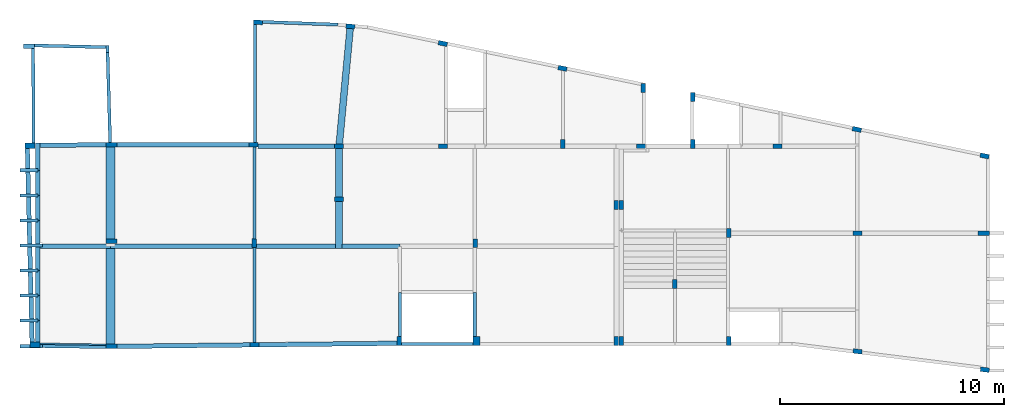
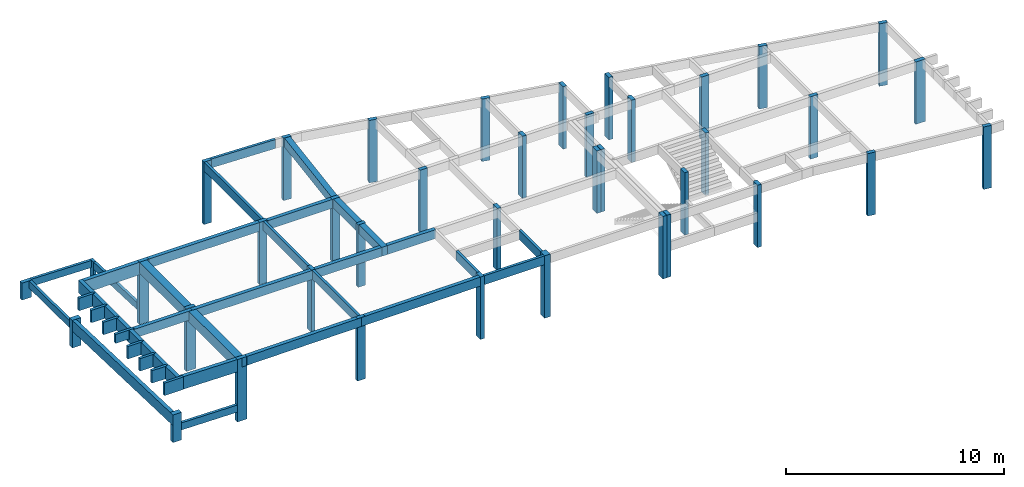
# One storey, part 1 of 5: 43 beams, 39 columns.
"""IFC4 building model written with IfcOpenShell, lengths in centimetres."""

from ifc_helpers import new_model, si_unit, derived_unit, frame, origin, origin_with_axes, origin_2d_with_axis, place, context, project, spatial, rectangle, extrude, clip, halfspace, material, element, save


model = new_model("IFC4")

# Units and contexts
model_context = context("Model", 3, precision=1e-05, world=origin_with_axes(), identifier="Body")
ifc_project = project(units=[si_unit("LENGTHUNIT", "METRE", prefix="CENTI"), si_unit("VOLUMEUNIT", "CUBIC_METRE"), si_unit("AREAUNIT", "SQUARE_METRE"), si_unit("POWERUNIT", "WATT"), si_unit("LUMINOUSFLUXUNIT", "LUMEN"), si_unit("ELECTRICCURRENTUNIT", "AMPERE"), si_unit("PRESSUREUNIT", "PASCAL", prefix="KILO"), si_unit("MASSUNIT", "GRAM", prefix="KILO"), si_unit("PLANEANGLEUNIT", "RADIAN"), derived_unit("VOLUMETRICFLOWRATEUNIT", [(si_unit("LENGTHUNIT", "METRE"), 3), (si_unit("TIMEUNIT", "SECOND"), -1)])], contexts=[model_context])

# Site, building, storey
site_placement = place(None, origin_with_axes())
site = spatial("IfcSite", under=ifc_project, at=site_placement)
building_placement = place(site_placement, origin())
building = spatial("IfcBuilding", under=site, at=building_placement)
placement_1 = place(building_placement, origin_with_axes())
placement_2 = place(placement_1, frame((0.0, 0.0, 550.0), z_axis=(0.0, 0.0, 1.0), x_axis=(1.0, 0.0, 0.0)))
storey_placement = place(placement_2, frame((0.0, 0.0, 350.0), z_axis=(0.0, 0.0, 1.0), x_axis=(1.0, 0.0, 0.0)))
storey = spatial("IfcBuildingStorey", under=building, at=storey_placement, Name="1º PAV.", CompositionType="ELEMENT", Elevation=900.0)

# Columns
ifc_material = material(Name="Concreto")
column_1_placement = place(storey_placement, frame((25.0, -10.0, -254.5), z_axis=(0.0, 0.0, 1.0), x_axis=(1.0, 0.0, 0.0)))
element("IfcColumn", 1, at=column_1_placement, inside=storey, material=ifc_material, Name="P.MURO1", context=model_context, shape_type="SolidModel", body=[
    extrude(rectangle(XDim=20.0, YDim=50.0, at=origin_2d_with_axis()), frame((0.0, 0.0, 0.0), z_axis=(0.0, 0.0, 1.0), x_axis=(0.0, -1.0, 0.0)), (0.0, 0.0, -1.0), 95.5),
])
column_2_placement = place(storey_placement, frame((373.95, -22.8, -254.5), z_axis=(0.0, 0.0, 1.0), x_axis=(1.0, 0.0, 0.0)))
element("IfcColumn", 2, at=column_2_placement, inside=storey, material=ifc_material, Name="P.MURO2", context=model_context, shape_type="SolidModel", body=[
    extrude(rectangle(XDim=14.0, YDim=30.0, at=origin_2d_with_axis()), origin_with_axes(), (0.0, 0.0, -1.0), 95.5),
])
for number, where, z_axis, x_axis, name in (
    (3, (30.0, -454.65, -194.5), (0.0, 0.0, 1.0), (1.0, 0.0, 0.0), "P.MURO3"),
    (4, (51.63, -1341.4, -194.5), (0.0, 0.0, 1.0), (1.0, 0.0, 0.0), "P.MURO4"),
):
    element("IfcColumn", number, at=place(storey_placement, frame(where, z_axis=z_axis, x_axis=x_axis)), inside=storey, material=ifc_material, Name=name, context=model_context, shape_type="SolidModel", body=[
        extrude(rectangle(XDim=25.0, YDim=45.0, at=origin_2d_with_axis()), frame((0.0, 0.0, 0.0), z_axis=(0.0, 0.0, 1.0), x_axis=(0.0, -1.0, 0.0)), (0.0, 0.0, -1.0), 155.5),
    ])
column_3_placement = place(storey_placement, frame((1045.1201307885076, 95.92384188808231, 0.0), z_axis=(0.0, 0.0, 1.0), x_axis=(1.0, 0.0, 0.0)))
element("IfcColumn", 5, at=column_3_placement, inside=storey, material=ifc_material, Name="P1", context=model_context, shape_type="SolidModel", body=[
    extrude(rectangle(XDim=20.0, YDim=40.0, at=origin_2d_with_axis()), frame((0.0, 0.0, 0.0), z_axis=(0.0, 0.0, 1.0), x_axis=(-0.036643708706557, -0.999328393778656, 0.0)), (0.0, 0.0, -1.0), 350.0),
])
for number, where, z_axis, x_axis, name in (
    (6, (1406.0, -455.9, 0.0), (0.0, 0.0, 1.0), (1.0, 0.0, 0.0), "P10"),
    (7, (1871.0, -455.9, 0.0), (0.0, 0.0, 1.0), (1.0, 0.0, 0.0), "P11"),
):
    element("IfcColumn", number, at=place(storey_placement, frame(where, z_axis=z_axis, x_axis=x_axis)), inside=storey, material=ifc_material, Name=name, context=model_context, shape_type="SolidModel", body=[
        extrude(rectangle(XDim=20.0, YDim=40.0, at=origin_2d_with_axis()), frame((0.0, 0.0, 0.0), z_axis=(0.0, 0.0, 1.0), x_axis=(0.0, -1.0, 0.0)), (0.0, 0.0, -1.0), 350.0),
    ])
column_4_placement = place(storey_placement, frame((2404.5, -445.9, 0.0), z_axis=(0.0, 0.0, 1.0), x_axis=(1.0, 0.0, 0.0)))
element("IfcColumn", 8, at=column_4_placement, inside=storey, material=ifc_material, Name="P12", context=model_context, shape_type="SolidModel", body=[
    extrude(rectangle(XDim=20.0, YDim=40.0, at=origin_2d_with_axis()), origin_with_axes(), (0.0, 0.0, -1.0), 350.0),
])
column_5_placement = place(storey_placement, frame((2753.0, -455.9, 0.0), z_axis=(0.0, 0.0, 1.0), x_axis=(1.0, 0.0, 0.0)))
element("IfcColumn", 9, at=column_5_placement, inside=storey, material=ifc_material, Name="P13", context=model_context, shape_type="SolidModel", body=[
    extrude(rectangle(XDim=20.0, YDim=40.0, at=origin_2d_with_axis()), frame((0.0, 0.0, 0.0), z_axis=(0.0, 0.0, 1.0), x_axis=(0.0, -1.0, 0.0)), (0.0, 0.0, -1.0), 350.0),
])
column_6_placement = place(storey_placement, frame((2983.0, -445.9, 0.0), z_axis=(0.0, 0.0, 1.0), x_axis=(1.0, 0.0, 0.0)))
element("IfcColumn", 10, at=column_6_placement, inside=storey, material=ifc_material, Name="P14", context=model_context, shape_type="SolidModel", body=[
    extrude(rectangle(XDim=20.0, YDim=40.0, at=origin_2d_with_axis()), origin_with_axes(), (0.0, 0.0, -1.0), 350.0),
])
column_7_placement = place(storey_placement, frame((3361.6, -455.9, 0.0), z_axis=(0.0, 0.0, 1.0), x_axis=(1.0, 0.0, 0.0)))
element("IfcColumn", 11, at=column_7_placement, inside=storey, material=ifc_material, Name="P15", context=model_context, shape_type="SolidModel", body=[
    extrude(rectangle(XDim=20.0, YDim=40.0, at=origin_2d_with_axis()), frame((0.0, 0.0, 0.0), z_axis=(0.0, 0.0, 1.0), x_axis=(0.0, -1.0, 0.0)), (0.0, 0.0, -1.0), 350.0),
])
column_8_placement = place(storey_placement, frame((4283.977691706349, -499.29875285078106, 0.0), z_axis=(0.0, 0.0, 1.0), x_axis=(1.0, 0.0, 0.0)))
element("IfcColumn", 12, at=column_8_placement, inside=storey, material=ifc_material, Name="P16", context=model_context, shape_type="SolidModel", body=[
    extrude(rectangle(XDim=20.0, YDim=40.0, at=origin_2d_with_axis()), frame((0.0, 0.0, 0.0), z_axis=(0.0, 0.0, 1.0), x_axis=(-0.204496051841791, -0.978867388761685, 0.0)), (0.0, 0.0, -1.0), 350.0),
])
column_9_placement = place(storey_placement, frame((1406.0, -692.9, 0.0), z_axis=(0.0, 0.0, 1.0), x_axis=(1.0, 0.0, 0.0)))
element("IfcColumn", 13, at=column_9_placement, inside=storey, material=ifc_material, Name="P18", context=model_context, shape_type="SolidModel", body=[
    extrude(rectangle(XDim=20.0, YDim=40.0, at=origin_2d_with_axis()), frame((0.0, 0.0, 0.0), z_axis=(0.0, 0.0, 1.0), x_axis=(0.0, 1.0, 0.0)), (0.0, 0.0, -1.0), 350.0),
])
column_10_placement = place(storey_placement, frame((2641.6, -718.1, 0.0), z_axis=(0.0, 0.0, 1.0), x_axis=(1.0, 0.0, 0.0)))
element("IfcColumn", 14, at=column_10_placement, inside=storey, material=ifc_material, Name="P19", context=model_context, shape_type="SolidModel", body=[
    extrude(rectangle(XDim=20.0, YDim=40.0, at=origin_2d_with_axis()), origin_with_axes(), (0.0, 0.0, -1.0), 350.0),
])
column_11_placement = place(storey_placement, frame((1457.0958307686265, 78.33654703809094, 0.0), z_axis=(0.0, 0.0, 1.0), x_axis=(1.0, 0.0, 0.0)))
element("IfcColumn", 15, at=column_11_placement, inside=storey, material=ifc_material, Name="P2", context=model_context, shape_type="SolidModel", body=[
    extrude(rectangle(XDim=20.0, YDim=40.0, at=origin_2d_with_axis()), frame((0.0, 0.0, 0.0), z_axis=(0.0, 0.0, 1.0), x_axis=(-0.085416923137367, -0.996345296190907, 0.0)), (0.0, 0.0, -1.0), 350.0),
])
column_12_placement = place(storey_placement, frame((2663.6, -718.1, 0.0), z_axis=(0.0, 0.0, 1.0), x_axis=(1.0, 0.0, 0.0)))
element("IfcColumn", 16, at=column_12_placement, inside=storey, material=ifc_material, Name="P20", context=model_context, shape_type="SolidModel", body=[
    extrude(rectangle(XDim=20.0, YDim=40.0, at=origin_2d_with_axis()), frame((0.0, 0.0, 0.0), z_axis=(0.0, 0.0, 1.0), x_axis=(-1.0, 0.0, 0.0)), (0.0, 0.0, -1.0), 350.0),
])
column_13_placement = place(storey_placement, frame((392.75, -879.9, 0.0), z_axis=(0.0, 0.0, 1.0), x_axis=(1.0, 0.0, 0.0)))
element("IfcColumn", 17, at=column_13_placement, inside=storey, material=ifc_material, Name="P21", context=model_context, shape_type="SolidModel", body=[
    extrude(rectangle(XDim=20.0, YDim=50.0, at=origin_2d_with_axis()), frame((0.0, 0.0, 0.0), z_axis=(0.0, 0.0, 1.0), x_axis=(0.0, -1.0, 0.0)), (0.0, 0.0, -1.0), 351.45),
])
column_14_placement = place(storey_placement, frame((1029.5, -888.4, 0.0), z_axis=(0.0, 0.0, 1.0), x_axis=(1.0, 0.0, 0.0)))
element("IfcColumn", 18, at=column_14_placement, inside=storey, material=ifc_material, Name="P22", context=model_context, shape_type="SolidModel", body=[
    extrude(rectangle(XDim=20.0, YDim=40.0, at=origin_2d_with_axis()), frame((0.0, 0.0, 0.0), z_axis=(0.0, 0.0, 1.0), x_axis=(1.0, -0.003490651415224, 0.0)), (0.0, 0.0, -1.0), 350.0),
])
for number, where, z_axis, x_axis, name in (
    (19, (2014.6, -888.4, 0.0), (0.0, 0.0, 1.0), (1.0, 0.0, 0.0), "P23"),
    (20, (3143.6, -843.6, 0.0), (0.0, 0.0, 1.0), (1.0, 0.0, 0.0), "P24"),
):
    element("IfcColumn", number, at=place(storey_placement, frame(where, z_axis=z_axis, x_axis=x_axis)), inside=storey, material=ifc_material, Name=name, context=model_context, shape_type="SolidModel", body=[
        extrude(rectangle(XDim=20.0, YDim=40.0, at=origin_2d_with_axis()), origin_with_axes(), (0.0, 0.0, -1.0), 350.0),
    ])
column_15_placement = place(storey_placement, frame((3716.6, -843.1, 0.0), z_axis=(0.0, 0.0, 1.0), x_axis=(1.0, 0.0, 0.0)))
element("IfcColumn", 21, at=column_15_placement, inside=storey, material=ifc_material, Name="P25", context=model_context, shape_type="SolidModel", body=[
    extrude(rectangle(XDim=20.0, YDim=40.0, at=origin_2d_with_axis()), frame((0.0, 0.0, 0.0), z_axis=(0.0, 0.0, 1.0), x_axis=(0.0, -1.0, 0.0)), (0.0, 0.0, -1.0), 350.0),
])
column_16_placement = place(storey_placement, frame((4280.6, -843.1, 0.0), z_axis=(0.0, 0.0, 1.0), x_axis=(1.0, 0.0, 0.0)))
element("IfcColumn", 22, at=column_16_placement, inside=storey, material=ifc_material, Name="P26", context=model_context, shape_type="SolidModel", body=[
    extrude(rectangle(XDim=20.0, YDim=50.0, at=origin_2d_with_axis()), frame((0.0, 0.0, 0.0), z_axis=(0.0, 0.0, 1.0), x_axis=(0.0, -1.0, 0.0)), (0.0, 0.0, -1.0), 350.0),
])
column_17_placement = place(storey_placement, frame((2903.6, -1070.1, 0.0), z_axis=(0.0, 0.0, 1.0), x_axis=(1.0, 0.0, 0.0)))
element("IfcColumn", 23, at=column_17_placement, inside=storey, material=ifc_material, Name="P27", context=model_context, shape_type="SolidModel", body=[
    extrude(rectangle(XDim=20.0, YDim=40.0, at=origin_2d_with_axis()), frame((0.0, 0.0, 0.0), z_axis=(0.0, 0.0, 1.0), x_axis=(-1.0, 0.0, 0.0)), (0.0, 0.0, -1.0), 350.0),
])
column_18_placement = place(storey_placement, frame((392.75, -1348.2, 0.0), z_axis=(0.0, 0.0, 1.0), x_axis=(1.0, 0.0, 0.0)))
element("IfcColumn", 24, at=column_18_placement, inside=storey, material=ifc_material, Name="P28", context=model_context, shape_type="SolidModel", body=[
    extrude(rectangle(XDim=20.0, YDim=50.0, at=origin_2d_with_axis()), frame((0.0, 0.0, 0.0), z_axis=(0.0, 0.0, 1.0), x_axis=(0.0, -1.0, 0.0)), (0.0, 0.0, -1.0), 350.0),
])
column_19_placement = place(storey_placement, frame((1029.7, -1341.0, 0.0), z_axis=(0.0, 0.0, 1.0), x_axis=(1.0, 0.0, 0.0)))
element("IfcColumn", 25, at=column_19_placement, inside=storey, material=ifc_material, Name="P29", context=model_context, shape_type="SolidModel", body=[
    extrude(rectangle(XDim=20.0, YDim=40.0, at=origin_2d_with_axis()), frame((0.0, 0.0, 0.0), z_axis=(0.0, 0.0, 1.0), x_axis=(0.0, -1.0, 0.0)), (0.0, 0.0, -1.0), 350.0),
])
column_20_placement = place(storey_placement, frame((1869.3876708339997, 1.853517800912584, 0.0), z_axis=(0.0, 0.0, 1.0), x_axis=(1.0, 0.0, 0.0)))
element("IfcColumn", 26, at=column_20_placement, inside=storey, material=ifc_material, Name="P3", context=model_context, shape_type="SolidModel", body=[
    extrude(rectangle(XDim=20.0, YDim=40.0, at=origin_2d_with_axis()), frame((0.0, 0.0, 0.0), z_axis=(0.0, 0.0, 1.0), x_axis=(-0.202787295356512, -0.979222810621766, 0.0)), (0.0, 0.0, -1.0), 350.0),
])
column_21_placement = place(storey_placement, frame((1674.6, -1324.1, 0.0), z_axis=(0.0, 0.0, 1.0), x_axis=(1.0, 0.0, 0.0)))
element("IfcColumn", 27, at=column_21_placement, inside=storey, material=ifc_material, Name="P30", context=model_context, shape_type="SolidModel", body=[
    extrude(rectangle(XDim=20.0, YDim=40.0, at=origin_2d_with_axis()), frame((0.0, 0.0, 0.0), z_axis=(0.0, 0.0, 1.0), x_axis=(-1.0, 0.0, 0.0)), (0.0, 0.0, -1.0), 350.0),
])
column_22_placement = place(storey_placement, frame((2019.6, -1324.1, 0.0), z_axis=(0.0, 0.0, 1.0), x_axis=(1.0, 0.0, 0.0)))
element("IfcColumn", 28, at=column_22_placement, inside=storey, material=ifc_material, Name="P31", context=model_context, shape_type="SolidModel", body=[
    extrude(rectangle(XDim=30.0, YDim=40.0, at=origin_2d_with_axis()), origin_with_axes(), (0.0, 0.0, -1.0), 350.0),
])
column_23_placement = place(storey_placement, frame((2641.6, -1324.1, 0.0), z_axis=(0.0, 0.0, 1.0), x_axis=(1.0, 0.0, 0.0)))
element("IfcColumn", 29, at=column_23_placement, inside=storey, material=ifc_material, Name="P32", context=model_context, shape_type="SolidModel", body=[
    extrude(rectangle(XDim=20.0, YDim=40.0, at=origin_2d_with_axis()), frame((0.0, 0.0, 0.0), z_axis=(0.0, 0.0, 1.0), x_axis=(-1.0, 0.0, 0.0)), (0.0, 0.0, -1.0), 350.0),
])
for number, where, z_axis, x_axis, name in (
    (30, (2663.6, -1324.1, 0.0), (0.0, 0.0, 1.0), (1.0, 0.0, 0.0), "P33"),
    (31, (3143.6, -1324.1, 0.0), (0.0, 0.0, 1.0), (1.0, 0.0, 0.0), "P34"),
):
    element("IfcColumn", number, at=place(storey_placement, frame(where, z_axis=z_axis, x_axis=x_axis)), inside=storey, material=ifc_material, Name=name, context=model_context, shape_type="SolidModel", body=[
        extrude(rectangle(XDim=20.0, YDim=40.0, at=origin_2d_with_axis()), origin_with_axes(), (0.0, 0.0, -1.0), 350.0),
    ])
for number, where, z_axis, x_axis, name in (
    (32, (3717.853332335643, -1370.618852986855, 0.0), (0.0, 0.0, 1.0), (1.0, 0.0, 0.0), "P35"),
    (33, (4285.261038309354, -1452.042188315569, 0.0), (0.0, 0.0, 1.0), (1.0, 0.0, 0.0), "P36"),
):
    element("IfcColumn", number, at=place(storey_placement, frame(where, z_axis=z_axis, x_axis=x_axis)), inside=storey, material=ifc_material, Name=name, context=model_context, shape_type="SolidModel", body=[
        extrude(rectangle(XDim=20.0, YDim=40.0, at=origin_2d_with_axis()), frame((0.0, 0.0, 0.0), z_axis=(0.0, 0.0, 1.0), x_axis=(0.125333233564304, 0.992114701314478, 0.0)), (0.0, 0.0, -1.0), 350.0),
    ])
column_24_placement = place(storey_placement, frame((2402.755039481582, -108.86867388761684, 0.0), z_axis=(0.0, 0.0, 1.0), x_axis=(1.0, 0.0, 0.0)))
element("IfcColumn", 34, at=column_24_placement, inside=storey, material=ifc_material, Name="P4", context=model_context, shape_type="SolidModel", body=[
    extrude(rectangle(XDim=20.0, YDim=40.0, at=origin_2d_with_axis()), frame((0.0, 0.0, 0.0), z_axis=(0.0, 0.0, 1.0), x_axis=(-0.204496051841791, -0.978867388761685, 0.0)), (0.0, 0.0, -1.0), 350.0),
])
for number, where, z_axis, x_axis, name in (
    (35, (2763.0, -195.49, 0.0), (0.0, 0.0, 1.0), (1.0, 0.0, 0.0), "P5"),
    (36, (2983.0, -237.0, 0.0), (0.0, 0.0, 1.0), (1.0, 0.0, 0.0), "P6"),
):
    element("IfcColumn", number, at=place(storey_placement, frame(where, z_axis=z_axis, x_axis=x_axis)), inside=storey, material=ifc_material, Name=name, context=model_context, shape_type="SolidModel", body=[
        extrude(rectangle(XDim=20.0, YDim=40.0, at=origin_2d_with_axis()), origin_with_axes(), (0.0, 0.0, -1.0), 350.0),
    ])
column_25_placement = place(storey_placement, frame((3714.555039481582, -381.1386738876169, 0.0), z_axis=(0.0, 0.0, 1.0), x_axis=(1.0, 0.0, 0.0)))
element("IfcColumn", 37, at=column_25_placement, inside=storey, material=ifc_material, Name="P7", context=model_context, shape_type="SolidModel", body=[
    extrude(rectangle(XDim=20.0, YDim=40.0, at=origin_2d_with_axis()), frame((0.0, 0.0, 0.0), z_axis=(0.0, 0.0, 1.0), x_axis=(-0.204496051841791, -0.978867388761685, 0.0)), (0.0, 0.0, -1.0), 350.0),
])
column_26_placement = place(storey_placement, frame((392.75, -448.8, 0.0), z_axis=(0.0, 0.0, 1.0), x_axis=(1.0, 0.0, 0.0)))
element("IfcColumn", 38, at=column_26_placement, inside=storey, material=ifc_material, Name="P8", context=model_context, shape_type="SolidModel", body=[
    extrude(rectangle(XDim=20.0, YDim=50.0, at=origin_2d_with_axis()), frame((0.0, 0.0, 0.0), z_axis=(0.0, 0.0, 1.0), x_axis=(0.0, -1.0, 0.0)), (0.0, 0.0, -1.0), 350.0),
])
column_27_placement = place(storey_placement, frame((1025.0, -448.8, 0.0), z_axis=(0.0, 0.0, 1.0), x_axis=(1.0, 0.0, 0.0)))
element("IfcColumn", 39, at=column_27_placement, inside=storey, material=ifc_material, Name="P9", context=model_context, shape_type="SolidModel", body=[
    extrude(rectangle(XDim=20.0, YDim=40.0, at=origin_2d_with_axis()), frame((0.0, 0.0, 0.0), z_axis=(0.0, 0.0, 1.0), x_axis=(0.0, -1.0, 0.0)), (0.0, 0.0, -1.0), 350.0),
])

# Beams
beam_1_placement = place(storey_placement, frame((208.51623894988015, -10.735971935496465, -254.5), z_axis=(0.0, 0.0, 1.0), x_axis=(1.0, 0.0, 0.0)))
element("IfcBeam", 40, at=beam_1_placement, inside=storey, material=ifc_material, Name="V.MURO1", context=model_context, shape_type="SolidModel", body=[
    extrude(rectangle(XDim=14.0, YDim=40.0, at=origin_2d_with_axis()), frame((-158.59869395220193, 3.737915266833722, -20.0), z_axis=(0.999722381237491, -0.02356184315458, 0.0), x_axis=(0.02356184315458, 0.999722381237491, 0.0)), (0.0, 0.0, 1.0), 317.28547230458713),
])
beam_2_placement = place(storey_placement, frame((220.9143730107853, -1349.0496246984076, -254.5), z_axis=(0.0, 0.0, 1.0), x_axis=(1.0, 0.0, 0.0)))
element("IfcBeam", 41, at=beam_2_placement, inside=storey, material=ifc_material, Name="V.MURO2", context=model_context, shape_type="SolidModel", body=[
    extrude(rectangle(XDim=14.0, YDim=40.0, at=origin_2d_with_axis()), frame((-146.88687547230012, 2.151125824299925, -20.0), z_axis=(0.999892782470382, -0.014643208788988, 0.0), x_axis=(-0.014643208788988, -0.999892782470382, 0.0)), (0.0, 0.0, 1.0), 293.8052520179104),
])
beam_3_placement = place(storey_placement, frame((28.310442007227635, -910.3421217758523, -194.5), z_axis=(0.0, 0.0, 1.0), x_axis=(1.0, 0.0, 0.0)))
element("IfcBeam", 42, at=beam_3_placement, inside=storey, material=ifc_material, Name="V.MURO3", context=model_context, shape_type="SolidModel", body=[
    extrude(rectangle(XDim=20.0, YDim=60.0, at=origin_2d_with_axis()), frame((10.813415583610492, -443.314028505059, -30.0), z_axis=(-0.024384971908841, 0.99970264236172, 0.0), x_axis=(0.99970264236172, 0.024384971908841, 0.0)), (0.0, 0.0, 1.0), 886.8917810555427),
])
beam_4_placement = place(storey_placement, frame((44.2199356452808, -231.0643877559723, -254.5), z_axis=(0.0, 0.0, 1.0), x_axis=(1.0, 0.0, 0.0)))
element("IfcBeam", 43, at=beam_4_placement, inside=storey, material=ifc_material, Name="V.MURO4", context=model_context, shape_type="SolidModel", body=[
    extrude(rectangle(XDim=14.0, YDim=40.0, at=origin_2d_with_axis()), frame((1.280193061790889, -211.10683634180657, -20.0), z_axis=(-0.006064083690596, 1.0, 0.0), x_axis=(1.0, 0.006064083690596, 0.0)), (0.0, 0.0, 1.0), 422.22143595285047),
])
beam_5_placement = place(storey_placement, frame((380.24447474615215, -223.55699173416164, -254.5), z_axis=(0.0, 0.0, 1.0), x_axis=(1.0, 0.0, 0.0)))
element("IfcBeam", 44, at=beam_5_placement, inside=storey, material=ifc_material, Name="V.MURO5", context=model_context, shape_type="SolidModel", body=[
    extrude(rectangle(XDim=14.0, YDim=40.0, at=origin_2d_with_axis()), frame((6.291492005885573, -215.44733512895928, -20.0), z_axis=(-0.029189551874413, 0.999573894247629, 0.0), x_axis=(0.999573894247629, 0.029189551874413, 0.0)), (0.0, 0.0, 1.0), 431.07835522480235),
])
beam_6_placement = place(storey_placement, frame((34.575, -898.05, 0.0), z_axis=(0.0, 0.0, 1.0), x_axis=(1.0, 0.0, 0.0)))
element("IfcBeam", 45, at=beam_6_placement, inside=storey, material=ifc_material, Name="V12", context=model_context, shape_type="SolidModel", body=[
    extrude(rectangle(XDim=14.0, YDim=50.0, at=origin_2d_with_axis()), frame((-49.975, 0.0, -25.0), z_axis=(1.0, 0.0, 0.0), x_axis=(0.0, -1.0, 0.0)), (0.0, 0.0, 1.0), 99.95),
])
beam_7_placement = place(storey_placement, frame((708.6252251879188, -902.41, 0.0), z_axis=(0.0, 0.0, 1.0), x_axis=(1.0, 0.0, 0.0)))
element("IfcBeam", 46, at=beam_7_placement, inside=storey, material=ifc_material, Name="V13", context=model_context, shape_type="SolidModel", body=[
    extrude(rectangle(XDim=20.0, YDim=50.0, at=origin_2d_with_axis()), frame((-320.87522518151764, -0.010322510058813, -25.0), z_axis=(1.0, 3.2169856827e-05, 0.0), x_axis=(3.2169856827e-05, -1.0, 0.0)), (0.0, 0.0, 1.0), 641.7504506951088),
])
beam_8_placement = place(storey_placement, frame((1549.269248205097, -902.4, 0.0), z_axis=(0.0, 0.0, 1.0), x_axis=(1.0, 0.0, 0.0)))
element("IfcBeam", 47, at=beam_8_placement, inside=storey, material=ifc_material, Name="V13", context=model_context, shape_type="SolidModel", body=[
    extrude(rectangle(XDim=20.0, YDim=50.0, at=origin_2d_with_axis()), frame((-128.30075179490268, 0.0, -25.0), z_axis=(1.0, 0.0, 0.0), x_axis=(0.0, -1.0, 0.0)), (0.0, 0.0, 1.0), 256.6015035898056),
])
beam_9_placement = place(storey_placement, frame((1217.735, -902.4, 0.0), z_axis=(0.0, 0.0, 1.0), x_axis=(1.0, 0.0, 0.0)))
element("IfcBeam", 48, at=beam_9_placement, inside=storey, material=ifc_material, Name="V13", context=model_context, shape_type="SolidModel", body=[
    extrude(rectangle(XDim=20.0, YDim=50.0, at=origin_2d_with_axis()), frame((-188.235, 0.0, -25.0), z_axis=(1.0, 0.0, 0.0), x_axis=(0.0, -1.0, 0.0)), (0.0, 0.0, 1.0), 376.47),
])
beam_10_placement = place(storey_placement, frame((221.15, -902.42, 0.0), z_axis=(0.0, 0.0, 1.0), x_axis=(1.0, 0.0, 0.0)))
element("IfcBeam", 49, at=beam_10_placement, inside=storey, material=ifc_material, Name="V13", context=model_context, shape_type="SolidModel", body=[
    extrude(rectangle(XDim=20.0, YDim=50.0, at=origin_2d_with_axis()), frame((-166.6, 0.0, -25.0), z_axis=(1.0, 0.0, 0.0), x_axis=(0.0, -1.0, 0.0)), (0.0, 0.0, 1.0), 333.2),
])
for number, where, z_axis, x_axis, name in (
    (50, (24.6, -1009.6, 0.0), (0.0, 0.0, 1.0), (1.0, 0.0, 0.0), "V15"),
    (51, (24.6, -1121.2, 0.0), (0.0, 0.0, 1.0), (1.0, 0.0, 0.0), "V17"),
):
    element("IfcBeam", number, at=place(storey_placement, frame(where, z_axis=z_axis, x_axis=x_axis)), inside=storey, material=ifc_material, Name=name, context=model_context, shape_type="SolidModel", body=[
        extrude(rectangle(XDim=14.0, YDim=70.0, at=origin_2d_with_axis()), frame((-40.0, 0.0, -35.0), z_axis=(1.0, 0.0, 0.0), x_axis=(0.0, -1.0, 0.0)), (0.0, 0.0, 1.0), 80.0),
    ])
beam_11_placement = place(storey_placement, frame((711.375, -448.8, 0.0), z_axis=(0.0, 0.0, 1.0), x_axis=(1.0, 0.0, 0.0)))
element("IfcBeam", 52, at=beam_11_placement, inside=storey, material=ifc_material, Name="V2", context=model_context, shape_type="SolidModel", body=[
    extrude(rectangle(XDim=20.0, YDim=50.0, at=origin_2d_with_axis()), frame((-293.625, 0.0, -25.0), z_axis=(1.0, 0.0, 0.0), x_axis=(0.0, -1.0, 0.0)), (0.0, 0.0, 1.0), 587.25),
])
beam_12_placement = place(storey_placement, frame((223.723951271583, -450.64922849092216, 0.0), z_axis=(0.0, 0.0, 1.0), x_axis=(1.0, 0.0, 0.0)))
element("IfcBeam", 53, at=beam_12_placement, inside=storey, material=ifc_material, Name="V2", context=model_context, shape_type="Clipping", body=[
    clip(extrude(rectangle(XDim=20.0, YDim=70.0, at=origin_2d_with_axis()), frame((-169.2196457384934, -1.618496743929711, -35.0), z_axis=(1.0, 0.009569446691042, 0.0), x_axis=(0.009569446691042, -1.0, 0.0)), (0.0, 0.0, 1.0), 338.26339101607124), halfspace(frame((-169.123951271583, 8.382876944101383, 0.0), z_axis=(1.0, 0.0, 0.0), x_axis=(0.0, 0.0, 0.009569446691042)), True)),
])
beam_13_placement = place(storey_placement, frame((24.6, -1232.8, 0.0), z_axis=(0.0, 0.0, 1.0), x_axis=(1.0, 0.0, 0.0)))
element("IfcBeam", 54, at=beam_13_placement, inside=storey, material=ifc_material, Name="V21", context=model_context, shape_type="SolidModel", body=[
    extrude(rectangle(XDim=14.0, YDim=70.0, at=origin_2d_with_axis()), frame((-40.0, 0.0, -35.0), z_axis=(1.0, 0.0, 0.0), x_axis=(0.0, -1.0, 0.0)), (0.0, 0.0, 1.0), 80.0),
])
beam_14_placement = place(storey_placement, frame((34.6, -1347.7, 0.0), z_axis=(0.0, 0.0, 1.0), x_axis=(1.0, 0.0, 0.0)))
element("IfcBeam", 55, at=beam_14_placement, inside=storey, material=ifc_material, Name="V23", context=model_context, shape_type="SolidModel", body=[
    extrude(rectangle(XDim=14.0, YDim=70.0, at=origin_2d_with_axis()), frame((-50.0, 0.0, -35.0), z_axis=(1.0, 0.0, 0.0), x_axis=(0.0, -1.0, 0.0)), (0.0, 0.0, 1.0), 100.0),
])
beam_15_placement = place(storey_placement, frame((223.7572198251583, -1345.1292428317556, 0.0), z_axis=(0.0, 0.0, 1.0), x_axis=(1.0, 0.0, 0.0)))
element("IfcBeam", 56, at=beam_15_placement, inside=storey, material=ifc_material, Name="V24", context=model_context, shape_type="Clipping", body=[
    clip(extrude(rectangle(XDim=20.0, YDim=70.0, at=origin_2d_with_axis()), frame((-169.3154200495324, 2.676405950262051, -35.0), z_axis=(0.999874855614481, -0.01582002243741, 0.0), x_axis=(-0.01582002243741, -0.999874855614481, 0.0)), (0.0, 0.0, 1.0), 338.3567831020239), halfspace(frame((-169.1572198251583, 12.675154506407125, 0.0), z_axis=(1.0, 0.0, 0.0), x_axis=(0.0, 0.0, -0.01582002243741)), True)),
])
beam_16_placement = place(storey_placement, frame((711.2287048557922, -1344.9327904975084, 0.0), z_axis=(0.0, 0.0, 1.0), x_axis=(1.0, 0.0, 0.0)))
element("IfcBeam", 57, at=beam_16_placement, inside=storey, material=ifc_material, Name="V24", context=model_context, shape_type="SolidModel", body=[
    extrude(rectangle(XDim=20.0, YDim=50.0, at=origin_2d_with_axis()), frame((-318.4756068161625, -3.545492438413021, -25.0), z_axis=(1.0, 0.011132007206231, 0.0), x_axis=(0.011132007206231, -1.0, 0.0)), (0.0, 0.0, 1.0), 636.990683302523),
])
beam_17_placement = place(storey_placement, frame((1347.207884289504, -1337.8557553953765, 0.0), z_axis=(0.0, 0.0, 1.0), x_axis=(1.0, 0.0, 0.0)))
element("IfcBeam", 58, at=beam_17_placement, inside=storey, material=ifc_material, Name="V24", context=model_context, shape_type="SolidModel", body=[
    extrude(rectangle(XDim=20.0, YDim=50.0, at=origin_2d_with_axis()), frame((-317.5035090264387, -3.536996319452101, -25.0), z_axis=(1.0, 0.01113933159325, 0.0), x_axis=(0.01113933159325, -1.0, 0.0)), (0.0, 0.0, 1.0), 635.0464190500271),
])
beam_18_placement = place(storey_placement, frame((1844.6, -1337.1, 0.0), z_axis=(0.0, 0.0, 1.0), x_axis=(1.0, 0.0, 0.0)))
element("IfcBeam", 59, at=beam_18_placement, inside=storey, material=ifc_material, Name="V25", context=model_context, shape_type="SolidModel", body=[
    extrude(rectangle(XDim=14.0, YDim=50.0, at=origin_2d_with_axis()), frame((-160.0, 0.0, -25.0), z_axis=(1.0, 0.0, 0.0), x_axis=(0.0, -1.0, 0.0)), (0.0, 0.0, 1.0), 320.0),
])
for number, where, z_axis, x_axis, name in (
    (60, (64.6, -953.825, 0.0), (0.0, 0.0, 1.0), (1.0, 0.0, 0.0), "V28"),
    (61, (64.6, -619.075, 0.0), (0.0, 0.0, 1.0), (1.0, 0.0, 0.0), "V28"),
):
    element("IfcBeam", number, at=place(storey_placement, frame(where, z_axis=z_axis, x_axis=x_axis)), inside=storey, material=ifc_material, Name=name, context=model_context, shape_type="SolidModel", body=[
        extrude(rectangle(XDim=20.0, YDim=70.0, at=origin_2d_with_axis()), frame((0.0, -55.775, -35.0), z_axis=(0.0, 1.0, 0.0), x_axis=(1.0, 0.0, 0.0)), (0.0, 0.0, 1.0), 111.55),
    ])
for number, where, z_axis, x_axis, name in (
    (62, (64.6, -730.65, 0.0), (0.0, 0.0, 1.0), (1.0, 0.0, 0.0), "V28"),
    (63, (64.6, -842.25, 0.0), (0.0, 0.0, 1.0), (1.0, 0.0, 0.0), "V28"),
    (64, (64.6, -1065.4, 0.0), (0.0, 0.0, 1.0), (1.0, 0.0, 0.0), "V28"),
    (65, (64.6, -1177.0, 0.0), (0.0, 0.0, 1.0), (1.0, 0.0, 0.0), "V28"),
):
    element("IfcBeam", number, at=place(storey_placement, frame(where, z_axis=z_axis, x_axis=x_axis)), inside=storey, material=ifc_material, Name=name, context=model_context, shape_type="SolidModel", body=[
        extrude(rectangle(XDim=20.0, YDim=70.0, at=origin_2d_with_axis()), frame((0.0, -55.8, -35.0), z_axis=(0.0, 1.0, 0.0), x_axis=(1.0, 0.0, 0.0)), (0.0, 0.0, 1.0), 111.6),
    ])
beam_19_placement = place(storey_placement, frame((64.6, -1293.75, 0.0), z_axis=(0.0, 0.0, 1.0), x_axis=(1.0, 0.0, 0.0)))
element("IfcBeam", 66, at=beam_19_placement, inside=storey, material=ifc_material, Name="V28", context=model_context, shape_type="SolidModel", body=[
    extrude(rectangle(XDim=20.0, YDim=70.0, at=origin_2d_with_axis()), frame((0.0, -60.95, -35.0), z_axis=(0.0, 1.0, 0.0), x_axis=(1.0, 0.0, 0.0)), (0.0, 0.0, 1.0), 121.9),
])
beam_20_placement = place(storey_placement, frame((64.6, -502.6702810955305, 0.0), z_axis=(0.0, 0.0, 1.0), x_axis=(1.0, 0.0, 0.0)))
element("IfcBeam", 67, at=beam_20_placement, inside=storey, material=ifc_material, Name="V28", context=model_context, shape_type="SolidModel", body=[
    extrude(rectangle(XDim=20.0, YDim=70.0, at=origin_2d_with_axis()), frame((0.0, -60.62971890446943, -35.0), z_axis=(0.0, 1.0, 0.0), x_axis=(1.0, 0.0, 0.0)), (0.0, 0.0, 1.0), 121.2594378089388),
])
beam_21_placement = place(storey_placement, frame((387.75, -664.35, 0.0), z_axis=(0.0, 0.0, 1.0), x_axis=(1.0, 0.0, 0.0)))
element("IfcBeam", 68, at=beam_21_placement, inside=storey, material=ifc_material, Name="V29", context=model_context, shape_type="SolidModel", body=[
    extrude(rectangle(XDim=40.0, YDim=60.0, at=origin_2d_with_axis()), frame((0.0, -205.55, -30.0), z_axis=(0.0, 1.0, 0.0), x_axis=(1.0, 0.0, 0.0)), (0.0, 0.0, 1.0), 411.1),
])
beam_22_placement = place(storey_placement, frame((387.75, -1120.31, 0.0), z_axis=(0.0, 0.0, 1.0), x_axis=(1.0, 0.0, 0.0)))
element("IfcBeam", 69, at=beam_22_placement, inside=storey, material=ifc_material, Name="V29", context=model_context, shape_type="SolidModel", body=[
    extrude(rectangle(XDim=40.0, YDim=60.0, at=origin_2d_with_axis()), frame((0.0, -217.89, -30.0), z_axis=(0.0, 1.0, 0.0), x_axis=(1.0, 0.0, 0.0)), (0.0, 0.0, 1.0), 435.78),
])
beam_23_placement = place(storey_placement, frame((1215.5, -455.9, 0.0), z_axis=(0.0, 0.0, 1.0), x_axis=(1.0, 0.0, 0.0)))
element("IfcBeam", 70, at=beam_23_placement, inside=storey, material=ifc_material, Name="V3", context=model_context, shape_type="SolidModel", body=[
    extrude(rectangle(XDim=20.0, YDim=50.0, at=origin_2d_with_axis()), frame((-170.5, 0.0, -25.0), z_axis=(1.0, 0.0, 0.0), x_axis=(0.0, 1.0, 0.0)), (0.0, 0.0, 1.0), 341.0),
])
beam_24_placement = place(storey_placement, frame((1029.7, -663.6, 0.0), z_axis=(0.0, 0.0, 1.0), x_axis=(1.0, 0.0, 0.0)))
element("IfcBeam", 71, at=beam_24_placement, inside=storey, material=ifc_material, Name="V30", context=model_context, shape_type="SolidModel", body=[
    extrude(rectangle(XDim=14.0, YDim=50.0, at=origin_2d_with_axis()), frame((0.0, -204.8, -25.0), z_axis=(0.0, 1.0, 0.0), x_axis=(1.0, 0.0, 0.0)), (0.0, 0.0, 1.0), 409.6),
])
beam_25_placement = place(storey_placement, frame((1029.7, -1119.7, 0.0), z_axis=(0.0, 0.0, 1.0), x_axis=(1.0, 0.0, 0.0)))
element("IfcBeam", 72, at=beam_25_placement, inside=storey, material=ifc_material, Name="V30", context=model_context, shape_type="SolidModel", body=[
    extrude(rectangle(XDim=14.0, YDim=50.0, at=origin_2d_with_axis()), frame((0.0, -211.3, -25.0), z_axis=(0.0, 1.0, 0.0), x_axis=(1.0, 0.0, 0.0)), (0.0, 0.0, 1.0), 422.6),
])
beam_26_placement = place(storey_placement, frame((1032.5, -176.08172057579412, 0.0), z_axis=(0.0, 0.0, 1.0), x_axis=(1.0, 0.0, 0.0)))
element("IfcBeam", 73, at=beam_26_placement, inside=storey, material=ifc_material, Name="V31", context=model_context, shape_type="SolidModel", body=[
    extrude(rectangle(XDim=14.0, YDim=50.0, at=origin_2d_with_axis()), frame((0.0, -262.7182794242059, -25.0), z_axis=(0.0, 1.0, 0.0), x_axis=(1.0, 0.0, 0.0)), (0.0, 0.0, 1.0), 525.4365588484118),
])
beam_27_placement = place(storey_placement, frame((1677.6, -1205.4997432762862, 0.0), z_axis=(0.0, 0.0, 1.0), x_axis=(1.0, 0.0, 0.0)))
element("IfcBeam", 74, at=beam_27_placement, inside=storey, material=ifc_material, Name="V32", context=model_context, shape_type="SolidModel", body=[
    extrude(rectangle(XDim=14.0, YDim=50.0, at=origin_2d_with_axis()), frame((0.0, -98.60025672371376, -25.0), z_axis=(0.0, 1.0, 0.0), x_axis=(1.0, 0.0, 0.0)), (0.0, 0.0, 1.0), 197.20051344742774),
])
beam_28_placement = place(storey_placement, frame((2011.6, -1205.5, 0.0), z_axis=(0.0, 0.0, 1.0), x_axis=(1.0, 0.0, 0.0)))
element("IfcBeam", 75, at=beam_28_placement, inside=storey, material=ifc_material, Name="V34", context=model_context, shape_type="SolidModel", body=[
    extrude(rectangle(XDim=14.0, YDim=50.0, at=origin_2d_with_axis()), frame((0.0, -98.6, -25.0), z_axis=(0.0, 1.0, 0.0), x_axis=(1.0, 0.0, 0.0)), (0.0, 0.0, 1.0), 197.2),
])
beam_29_placement = place(storey_placement, frame((1233.2215395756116, 92.1681, 0.0), z_axis=(0.0, 0.0, 1.0), x_axis=(1.0, 0.0, 0.0)))
element("IfcBeam", 76, at=beam_29_placement, inside=storey, material=ifc_material, Name="V49", context=model_context, shape_type="Clipping", body=[
    clip(extrude(rectangle(XDim=14.0, YDim=50.0, at=origin_2d_with_axis()), frame((-168.00153957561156, 6.011900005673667, -25.0), z_axis=(0.999359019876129, -0.03579873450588, 0.0), x_axis=(0.03579873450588, 0.999359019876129, 0.0)), (0.0, 0.0, 1.0), 336.21858858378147), halfspace(frame((168.25213071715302, 0.971213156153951, -50.0), z_axis=(-0.998167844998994, 0.060505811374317, 0.0), x_axis=(0.0, 0.0, -0.024733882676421)), True)),
])
beam_30_placement = place(storey_placement, frame((1431.5521656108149, -193.74338586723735, 0.0), z_axis=(0.0, 0.0, 1.0), x_axis=(1.0, 0.0, 0.0)))
element("IfcBeam", 77, at=beam_30_placement, inside=storey, material=ifc_material, Name="V51", context=model_context, shape_type="SolidModel", body=[
    extrude(rectangle(XDim=30.0, YDim=50.0, at=origin_2d_with_axis()), frame((-24.619176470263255, -262.24420205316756, -25.0), z_axis=(0.093467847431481, 0.995622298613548, 0.0), x_axis=(0.995622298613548, -0.093467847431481, 0.0)), (0.0, 0.0, 1.0), 526.7945533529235),
])
beam_31_placement = place(storey_placement, frame((1405.9842479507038, -807.6511278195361, 0.0), z_axis=(0.0, 0.0, 1.0), x_axis=(1.0, 0.0, 0.0)))
element("IfcBeam", 78, at=beam_31_placement, inside=storey, material=ifc_material, Name="V51", context=model_context, shape_type="SolidModel", body=[
    extrude(rectangle(XDim=30.0, YDim=50.0, at=origin_2d_with_axis()), frame((-0.015752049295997, -104.75112781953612, -25.0), z_axis=(0.000150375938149, 1.0, 0.0), x_axis=(1.0, -0.000150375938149, 0.0)), (0.0, 0.0, 1.0), 209.50225800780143),
])
beam_32_placement = place(storey_placement, frame((1406.0, -574.4, 0.0), z_axis=(0.0, 0.0, 1.0), x_axis=(1.0, 0.0, 0.0)))
element("IfcBeam", 79, at=beam_32_placement, inside=storey, material=ifc_material, Name="V51", context=model_context, shape_type="SolidModel", body=[
    extrude(rectangle(XDim=30.0, YDim=50.0, at=origin_2d_with_axis()), frame((0.0, -108.5, -25.0), z_axis=(0.0, 1.0, 0.0), x_axis=(1.0, 0.0, 0.0)), (0.0, 0.0, 1.0), 217.0),
])
for number, where, z_axis, x_axis, name in (
    (80, (24.6, -563.3, 0.0), (0.0, 0.0, 1.0), (1.0, 0.0, 0.0), "V6"),
    (81, (24.6, -674.85, 0.0), (0.0, 0.0, 1.0), (1.0, 0.0, 0.0), "V7"),
    (82, (24.6, -786.45, 0.0), (0.0, 0.0, 1.0), (1.0, 0.0, 0.0), "V8"),
):
    element("IfcBeam", number, at=place(storey_placement, frame(where, z_axis=z_axis, x_axis=x_axis)), inside=storey, material=ifc_material, Name=name, context=model_context, shape_type="SolidModel", body=[
        extrude(rectangle(XDim=14.0, YDim=70.0, at=origin_2d_with_axis()), frame((-40.0, 0.0, -35.0), z_axis=(1.0, 0.0, 0.0), x_axis=(0.0, -1.0, 0.0)), (0.0, 0.0, 1.0), 80.0),
    ])

save(model, "model.ifc")
